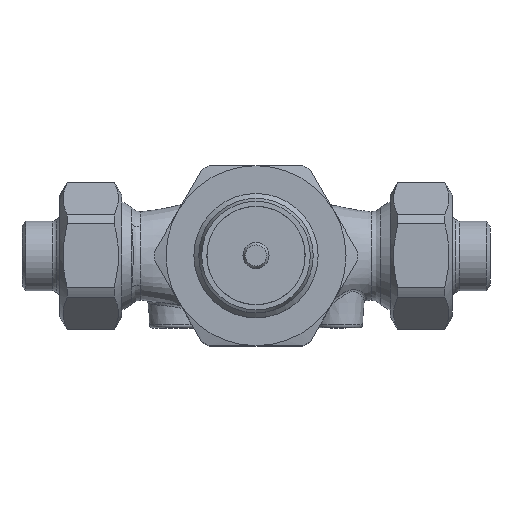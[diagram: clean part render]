
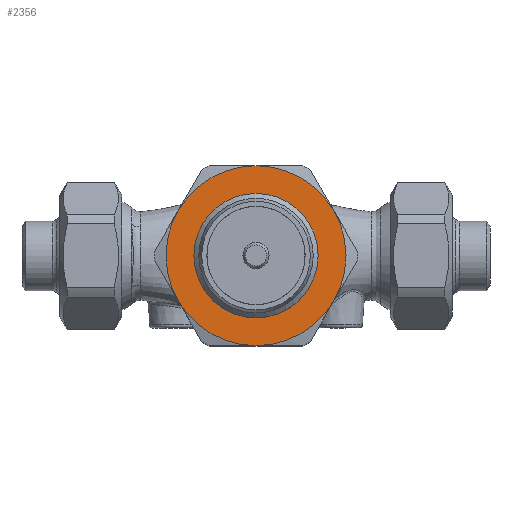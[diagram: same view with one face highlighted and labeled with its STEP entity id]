
A CAD part, top view. The second image highlights one B-rep face of the part: STEP entity #2356.
In plain terms, the highlighted planar face has unit normal (0, 0, 1).
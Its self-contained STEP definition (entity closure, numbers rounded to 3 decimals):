
#2356=ADVANCED_FACE('',(#3088,#3089),#2878,.T.);
#2878=PLANE('',#9579);
#3088=FACE_BOUND('',#3394,.T.);
#3089=FACE_BOUND('',#3395,.T.);
#3394=EDGE_LOOP('',(#4366));
#3395=EDGE_LOOP('',(#4367,#4368,#4369,#4370,#4371,#4372));
#4366=ORIENTED_EDGE('',*,*,#7755,.F.);
#4367=ORIENTED_EDGE('',*,*,#7704,.T.);
#4368=ORIENTED_EDGE('',*,*,#7708,.T.);
#4369=ORIENTED_EDGE('',*,*,#7716,.T.);
#4370=ORIENTED_EDGE('',*,*,#7720,.T.);
#4371=ORIENTED_EDGE('',*,*,#7748,.T.);
#4372=ORIENTED_EDGE('',*,*,#7710,.T.);
#6792=VERTEX_POINT('',#19310);
#6794=VERTEX_POINT('',#19317);
#6797=VERTEX_POINT('',#19331);
#6799=VERTEX_POINT('',#19340);
#6803=VERTEX_POINT('',#19359);
#6806=VERTEX_POINT('',#19373);
#6821=VERTEX_POINT('',#19480);
#7704=EDGE_CURVE('',#6792,#6794,#8955,.T.);
#7708=EDGE_CURVE('',#6794,#6797,#8957,.T.);
#7710=EDGE_CURVE('',#6799,#6792,#8958,.T.);
#7716=EDGE_CURVE('',#6797,#6803,#8961,.T.);
#7720=EDGE_CURVE('',#6803,#6806,#8963,.T.);
#7748=EDGE_CURVE('',#6806,#6799,#8970,.T.);
#7755=EDGE_CURVE('',#6821,#6821,#8972,.T.);
#8955=CIRCLE('',#9543,27.5);
#8957=CIRCLE('',#9546,27.5);
#8958=CIRCLE('',#9548,27.5);
#8961=CIRCLE('',#9552,27.5);
#8963=CIRCLE('',#9555,27.5);
#8970=CIRCLE('',#9573,27.5);
#8972=CIRCLE('',#9578,19.);
#9543=AXIS2_PLACEMENT_3D('',#19318,#10738,#10739);
#9546=AXIS2_PLACEMENT_3D('',#19332,#10744,#10745);
#9548=AXIS2_PLACEMENT_3D('',#19339,#10748,#10749);
#9552=AXIS2_PLACEMENT_3D('',#19360,#10756,#10757);
#9555=AXIS2_PLACEMENT_3D('',#19374,#10762,#10763);
#9573=AXIS2_PLACEMENT_3D('',#19458,#10808,#10809);
#9578=AXIS2_PLACEMENT_3D('',#19479,#10820,#10821);
#9579=AXIS2_PLACEMENT_3D('',#19481,#10822,#10823);
#10738=DIRECTION('',(0.,0.,1.));
#10739=DIRECTION('',(-1.,0.,0.));
#10744=DIRECTION('',(0.,0.,1.));
#10745=DIRECTION('',(-1.,0.,0.));
#10748=DIRECTION('',(0.,0.,1.));
#10749=DIRECTION('',(-1.,0.,0.));
#10756=DIRECTION('',(0.,0.,1.));
#10757=DIRECTION('',(-1.,0.,0.));
#10762=DIRECTION('',(0.,0.,1.));
#10763=DIRECTION('',(-1.,0.,0.));
#10808=DIRECTION('',(0.,0.,1.));
#10809=DIRECTION('',(-1.,0.,0.));
#10820=DIRECTION('',(0.,0.,1.));
#10821=DIRECTION('',(1.,0.,0.));
#10822=DIRECTION('',(0.,0.,1.));
#10823=DIRECTION('',(-1.,0.,0.));
#19310=CARTESIAN_POINT('',(-23.816,-13.75,48.));
#19317=CARTESIAN_POINT('',(0.,-27.5,48.));
#19318=CARTESIAN_POINT('',(0.,0.,48.));
#19331=CARTESIAN_POINT('',(23.816,-13.75,48.));
#19332=CARTESIAN_POINT('',(0.,0.,48.));
#19339=CARTESIAN_POINT('',(0.,0.,48.));
#19340=CARTESIAN_POINT('',(-23.816,13.75,48.));
#19359=CARTESIAN_POINT('',(23.816,13.75,48.));
#19360=CARTESIAN_POINT('',(0.,0.,48.));
#19373=CARTESIAN_POINT('',(0.,27.5,48.));
#19374=CARTESIAN_POINT('',(0.,0.,48.));
#19458=CARTESIAN_POINT('',(0.,0.,48.));
#19479=CARTESIAN_POINT('',(0.,0.,48.));
#19480=CARTESIAN_POINT('',(19.,0.,48.));
#19481=CARTESIAN_POINT('',(-19.5,0.,48.));
